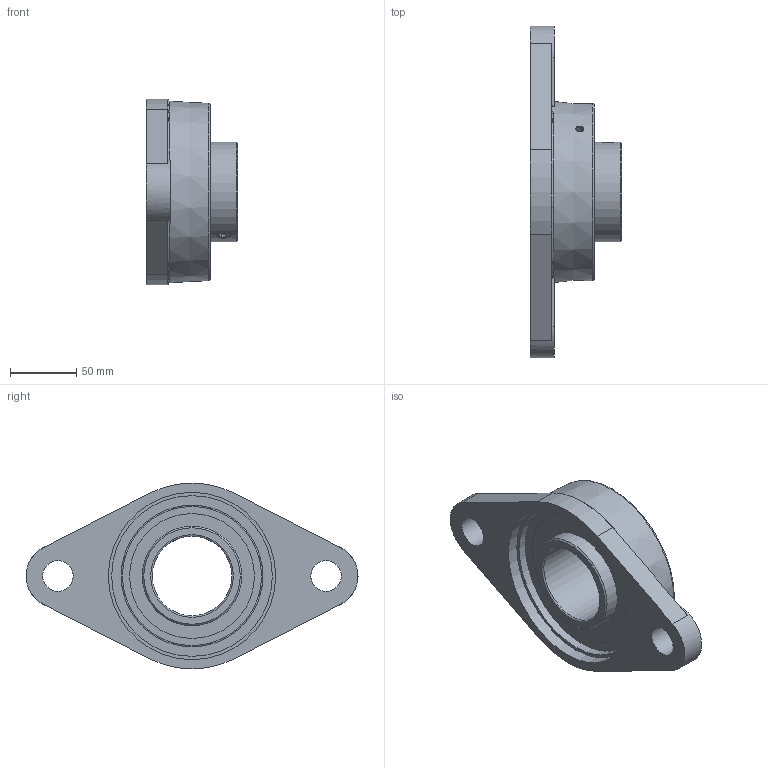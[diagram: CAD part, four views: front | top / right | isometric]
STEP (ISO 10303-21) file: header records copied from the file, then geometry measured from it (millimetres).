
FILE_DESCRIPTION (( 'STEP AP203' ), '1' );
FILE_NAME ('UCFL-212.STEP', '2019-03-08T12:12:08', ( '' ), ( '' ), 'SwSTEP 2.0', 'SolidWorks 2017', '' );
FILE_SCHEMA (( 'CONFIG_CONTROL_DESIGN' ));
Length unit declared in the file: millimetre
Products named in the file (1): UCFL-212
Bounding box: 68.7 x 250 x 140 mm (x, y, z)
Volume: 553216.2 mm3; surface area: 112427.1 mm2
Topology: 2 solids, 3 shells, 93 faces, 210 edges, 141 vertices
Faces by surface type: plane 43, cylinder 24, cone 10, torus 9, sphere 7
Full cylindrical faces by diameter (mm): 1.35 x4, 4.918 x1, 6 x1, 10 x2, 23 x2, 60 x1, 74.9 x4, 93.992 x2, 120 x1, 121 x1, 126 x1
Entity records: 2973 total; most frequent: CARTESIAN_POINT 1050, DIRECTION 384, ORIENTED_EDGE 304, AXIS2_PLACEMENT_3D 160, EDGE_LOOP 158, EDGE_CURVE 152, VERTEX_POINT 120, FACE_OUTER_BOUND 120
